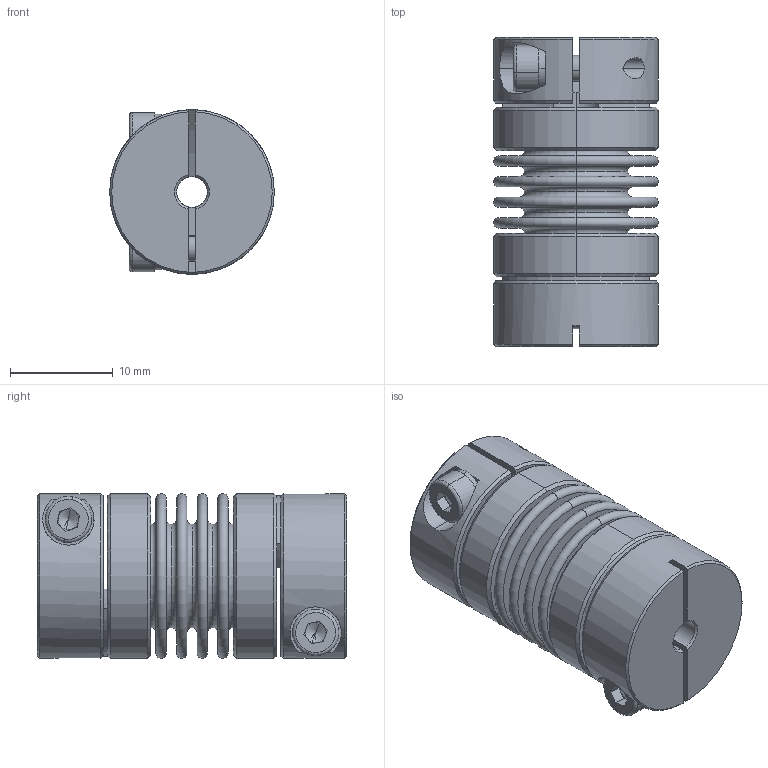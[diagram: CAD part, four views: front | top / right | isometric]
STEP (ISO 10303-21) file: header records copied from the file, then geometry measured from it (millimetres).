
FILE_DESCRIPTION (( 'STEP AP203' ), '1' );
FILE_NAME ('LB-B-D16L30-3-5.STEP', '2021-11-04T01:09:38', ( '' ), ( '' ), 'SwSTEP 2.0', 'SolidWorks 2018', '' );
FILE_SCHEMA (( 'CONFIG_CONTROL_DESIGN' ));
Length unit declared in the file: millimetre
Products named in the file (2): 零件1^LB-B-D16L30 波纹管联轴器-组装体; LB-B-D16L30-3-5
Assembly tree (1 placements, depth 2):
  LB-B-D16L30-3-5
    零件1^LB-B-D16L30 波纹管联轴器-组装体
Bounding box: 16 x 30.04 x 16 mm (x, y, z)
Volume: 3386.5 mm3; surface area: 6478.8 mm2
Topology: 1 solids, 1 shells, 254 faces, 586 edges, 362 vertices
Faces by surface type: plane 86, torus 68, cylinder 66, cone 34
Entity records: 7660 total; most frequent: CARTESIAN_POINT 1472, DIRECTION 1420, ORIENTED_EDGE 1164, AXIS2_PLACEMENT_3D 622, EDGE_CURVE 582, CIRCLE 364, VERTEX_POINT 362, EDGE_LOOP 296
